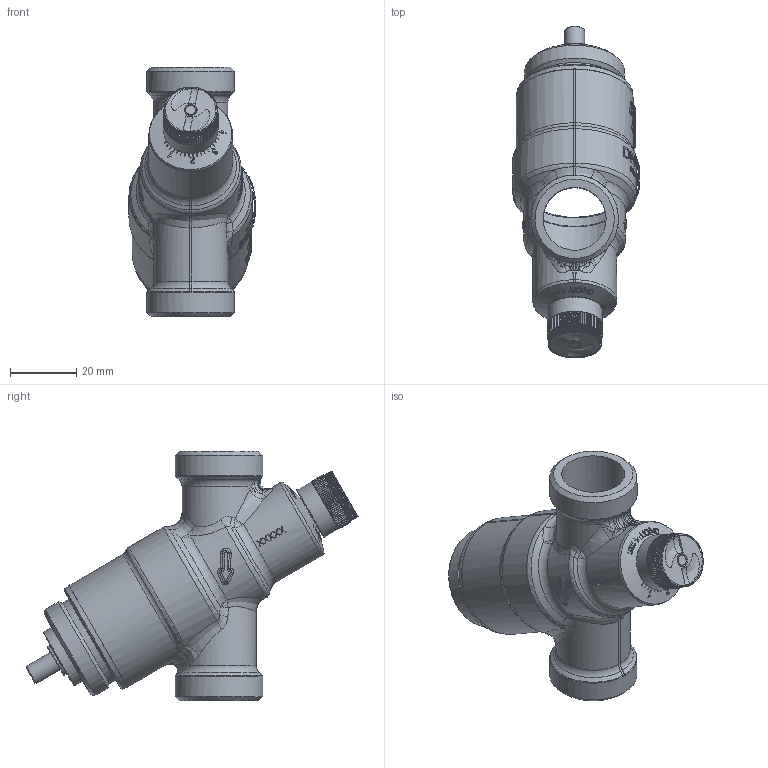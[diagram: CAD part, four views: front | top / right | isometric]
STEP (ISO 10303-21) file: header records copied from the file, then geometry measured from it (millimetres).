
FILE_DESCRIPTION(/* description */ ('Ventil on/off DN15 N/N Low'),/* implementation_level */ '2;1');
FILE_NAME(/* name */ 'C:\Users\cbr\Desktop\01-0221.stp',/* time_stamp */ '2019-10-23T09:51:29+02:00',/* author */ ('cbr'),/* organization */ (''),/* preprocessor_version */ 'ST-DEVELOPER v17.2',/* originating_system */ 'Autodesk Inventor 2019',/* authorisation */ '');
FILE_SCHEMA (('AUTOMOTIVE_DESIGN { 1 0 10303 214 3 1 1 }'));
Length unit declared in the file: millimetre
Products named in the file (21): 01-0221; 59767; 901310; 69706; 75609; 68936; 73039-90778; 66591; 66083; 80502; 79168-901310; 73160-901310; 73047; 66592; 80503; 73039-01-02XX; 75315; 67467; 79169; 75612; 01-0221-91707
Assembly tree (22 placements, depth 3):
  01-0221
    59767
    901310
      69706
      75609
      68936
      73039-90778  x2
      66591
      66083
      80502
      79168-901310
      73160-901310
      73047
      66592
      79169
    80503
    73039-01-02XX
    75315
    67467
    79169
    75612
    01-0221-91707
Bounding box: 38.1 x 100.09 x 75.3 mm (x, y, z)
Volume: 36806.4 mm3; surface area: 38464.3 mm2
Topology: 110 solids, 110 shells, 2559 faces, 6778 edges, 4468 vertices
Faces by surface type: plane 1109, bspline 781, cylinder 461, cone 128, torus 76, sphere 4
Full cylindrical faces by diameter (mm): 2 x1, 3 x1, 3.1 x2, 3.2 x2, 3.3 x1, 4 x2, 6 x3, 6.1 x2, 6.2 x5, 6.3 x1, 7 x1, 7.4 x1, 7.5 x2, 8 x1, 9.3 x1, 9.5 x1, 9.6 x2, 10 x3, 11 x2, 11.5 x1, 12 x2, 14.5 x1, 15.6 x1, 16.5 x1, 18.6 x1, 19 x2, 21 x1, 22 x1, 22.3 x1, 23.5 x1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
Entity records: 106334 total; most frequent: CARTESIAN_POINT 46351, ORIENTED_EDGE 13396, DIRECTION 10167, EDGE_CURVE 6698, VERTEX_POINT 4427, AXIS2_PLACEMENT_3D 3444, LINE 3279, VECTOR 3279
